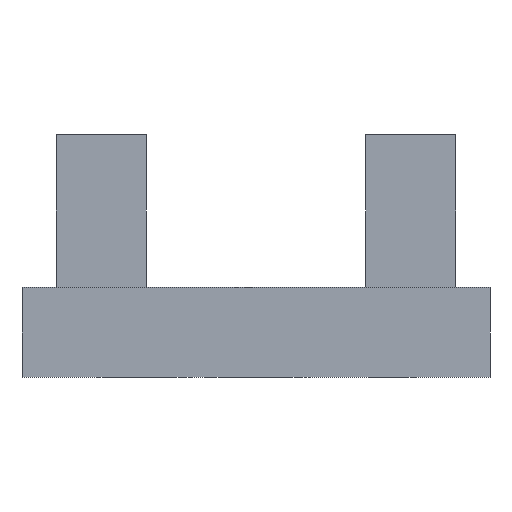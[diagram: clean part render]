
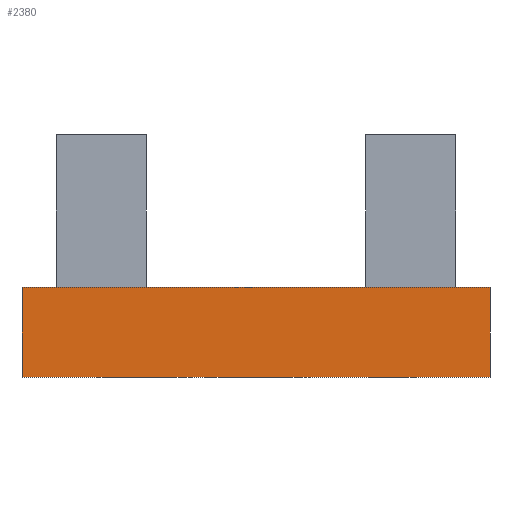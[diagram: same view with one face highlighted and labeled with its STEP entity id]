
A CAD part, front view. The second image highlights one B-rep face of the part: STEP entity #2380.
In plain terms, the highlighted planar face has unit normal (0, -1, 0).
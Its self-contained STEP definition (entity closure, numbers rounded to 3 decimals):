
#55 = PLANE('',#56);
#56 = AXIS2_PLACEMENT_3D('',#57,#58,#59);
#57 = CARTESIAN_POINT('',(0.,-15.4,-10.));
#58 = DIRECTION('',(0.,0.,1.));
#59 = DIRECTION('',(1.,0.,0.));
#1587 = VERTEX_POINT('',#1588);
#1588 = CARTESIAN_POINT('',(-13.,-60.,-10.));
#1602 = PLANE('',#1603);
#1603 = AXIS2_PLACEMENT_3D('',#1604,#1605,#1606);
#1604 = CARTESIAN_POINT('',(-13.,-60.,-10.));
#1605 = DIRECTION('',(-1.,0.,0.));
#1606 = DIRECTION('',(0.,1.,0.));
#1614 = EDGE_CURVE('',#1615,#1587,#1617,.T.);
#1615 = VERTEX_POINT('',#1616);
#1616 = CARTESIAN_POINT('',(13.,-60.,-10.));
#1617 = SURFACE_CURVE('',#1618,(#1622,#1629),.PCURVE_S1.);
#1618 = LINE('',#1619,#1620);
#1619 = CARTESIAN_POINT('',(13.,-60.,-10.));
#1620 = VECTOR('',#1621,1.);
#1621 = DIRECTION('',(-1.,0.,0.));
#1622 = PCURVE('',#55,#1623);
#1623 = DEFINITIONAL_REPRESENTATION('',(#1624),#1628);
#1624 = LINE('',#1625,#1626);
#1625 = CARTESIAN_POINT('',(13.,-44.6));
#1626 = VECTOR('',#1627,1.);
#1627 = DIRECTION('',(-1.,0.));
#1628 = ( GEOMETRIC_REPRESENTATION_CONTEXT(2) 
PARAMETRIC_REPRESENTATION_CONTEXT() REPRESENTATION_CONTEXT('2D SPACE',''
  ) );
#1629 = PCURVE('',#1630,#1635);
#1630 = PLANE('',#1631);
#1631 = AXIS2_PLACEMENT_3D('',#1632,#1633,#1634);
#1632 = CARTESIAN_POINT('',(13.,-60.,-10.));
#1633 = DIRECTION('',(0.,-1.,0.));
#1634 = DIRECTION('',(-1.,0.,0.));
#1635 = DEFINITIONAL_REPRESENTATION('',(#1636),#1640);
#1636 = LINE('',#1637,#1638);
#1637 = CARTESIAN_POINT('',(0.,0.));
#1638 = VECTOR('',#1639,1.);
#1639 = DIRECTION('',(1.,0.));
#1640 = ( GEOMETRIC_REPRESENTATION_CONTEXT(2) 
PARAMETRIC_REPRESENTATION_CONTEXT() REPRESENTATION_CONTEXT('2D SPACE',''
  ) );
#1656 = PLANE('',#1657);
#1657 = AXIS2_PLACEMENT_3D('',#1658,#1659,#1660);
#1658 = CARTESIAN_POINT('',(13.,29.2,-10.));
#1659 = DIRECTION('',(1.,0.,0.));
#1660 = DIRECTION('',(0.,-1.,0.));
#1956 = PLANE('',#1957);
#1957 = AXIS2_PLACEMENT_3D('',#1958,#1959,#1960);
#1958 = CARTESIAN_POINT('',(0.,-15.4,-15.));
#1959 = DIRECTION('',(0.,0.,1.));
#1960 = DIRECTION('',(1.,0.,0.));
#2338 = VERTEX_POINT('',#2339);
#2339 = CARTESIAN_POINT('',(-13.,-60.,-15.));
#2360 = EDGE_CURVE('',#1587,#2338,#2361,.T.);
#2361 = SURFACE_CURVE('',#2362,(#2366,#2373),.PCURVE_S1.);
#2362 = LINE('',#2363,#2364);
#2363 = CARTESIAN_POINT('',(-13.,-60.,-10.));
#2364 = VECTOR('',#2365,1.);
#2365 = DIRECTION('',(0.,0.,-1.));
#2366 = PCURVE('',#1602,#2367);
#2367 = DEFINITIONAL_REPRESENTATION('',(#2368),#2372);
#2368 = LINE('',#2369,#2370);
#2369 = CARTESIAN_POINT('',(0.,0.));
#2370 = VECTOR('',#2371,1.);
#2371 = DIRECTION('',(0.,1.));
#2372 = ( GEOMETRIC_REPRESENTATION_CONTEXT(2) 
PARAMETRIC_REPRESENTATION_CONTEXT() REPRESENTATION_CONTEXT('2D SPACE',''
  ) );
#2373 = PCURVE('',#1630,#2374);
#2374 = DEFINITIONAL_REPRESENTATION('',(#2375),#2379);
#2375 = LINE('',#2376,#2377);
#2376 = CARTESIAN_POINT('',(26.,0.));
#2377 = VECTOR('',#2378,1.);
#2378 = DIRECTION('',(0.,1.));
#2379 = ( GEOMETRIC_REPRESENTATION_CONTEXT(2) 
PARAMETRIC_REPRESENTATION_CONTEXT() REPRESENTATION_CONTEXT('2D SPACE',''
  ) );
#2380 = ADVANCED_FACE('',(#2381),#1630,.T.);
#2381 = FACE_BOUND('',#2382,.T.);
#2382 = EDGE_LOOP('',(#2383,#2384,#2385,#2408));
#2383 = ORIENTED_EDGE('',*,*,#1614,.T.);
#2384 = ORIENTED_EDGE('',*,*,#2360,.T.);
#2385 = ORIENTED_EDGE('',*,*,#2386,.F.);
#2386 = EDGE_CURVE('',#2387,#2338,#2389,.T.);
#2387 = VERTEX_POINT('',#2388);
#2388 = CARTESIAN_POINT('',(13.,-60.,-15.));
#2389 = SURFACE_CURVE('',#2390,(#2394,#2401),.PCURVE_S1.);
#2390 = LINE('',#2391,#2392);
#2391 = CARTESIAN_POINT('',(13.,-60.,-15.));
#2392 = VECTOR('',#2393,1.);
#2393 = DIRECTION('',(-1.,0.,0.));
#2394 = PCURVE('',#1630,#2395);
#2395 = DEFINITIONAL_REPRESENTATION('',(#2396),#2400);
#2396 = LINE('',#2397,#2398);
#2397 = CARTESIAN_POINT('',(0.,5.));
#2398 = VECTOR('',#2399,1.);
#2399 = DIRECTION('',(1.,0.));
#2400 = ( GEOMETRIC_REPRESENTATION_CONTEXT(2) 
PARAMETRIC_REPRESENTATION_CONTEXT() REPRESENTATION_CONTEXT('2D SPACE',''
  ) );
#2401 = PCURVE('',#1956,#2402);
#2402 = DEFINITIONAL_REPRESENTATION('',(#2403),#2407);
#2403 = LINE('',#2404,#2405);
#2404 = CARTESIAN_POINT('',(13.,-44.6));
#2405 = VECTOR('',#2406,1.);
#2406 = DIRECTION('',(-1.,0.));
#2407 = ( GEOMETRIC_REPRESENTATION_CONTEXT(2) 
PARAMETRIC_REPRESENTATION_CONTEXT() REPRESENTATION_CONTEXT('2D SPACE',''
  ) );
#2408 = ORIENTED_EDGE('',*,*,#2409,.F.);
#2409 = EDGE_CURVE('',#1615,#2387,#2410,.T.);
#2410 = SURFACE_CURVE('',#2411,(#2415,#2422),.PCURVE_S1.);
#2411 = LINE('',#2412,#2413);
#2412 = CARTESIAN_POINT('',(13.,-60.,-10.));
#2413 = VECTOR('',#2414,1.);
#2414 = DIRECTION('',(0.,0.,-1.));
#2415 = PCURVE('',#1630,#2416);
#2416 = DEFINITIONAL_REPRESENTATION('',(#2417),#2421);
#2417 = LINE('',#2418,#2419);
#2418 = CARTESIAN_POINT('',(0.,0.));
#2419 = VECTOR('',#2420,1.);
#2420 = DIRECTION('',(0.,1.));
#2421 = ( GEOMETRIC_REPRESENTATION_CONTEXT(2) 
PARAMETRIC_REPRESENTATION_CONTEXT() REPRESENTATION_CONTEXT('2D SPACE',''
  ) );
#2422 = PCURVE('',#1656,#2423);
#2423 = DEFINITIONAL_REPRESENTATION('',(#2424),#2428);
#2424 = LINE('',#2425,#2426);
#2425 = CARTESIAN_POINT('',(89.2,0.));
#2426 = VECTOR('',#2427,1.);
#2427 = DIRECTION('',(0.,1.));
#2428 = ( GEOMETRIC_REPRESENTATION_CONTEXT(2) 
PARAMETRIC_REPRESENTATION_CONTEXT() REPRESENTATION_CONTEXT('2D SPACE',''
  ) );
